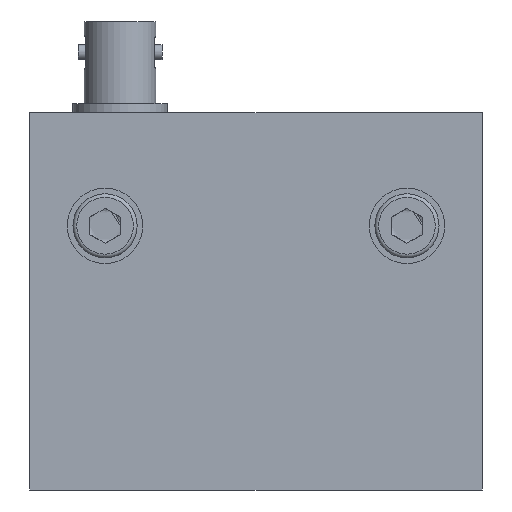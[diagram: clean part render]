
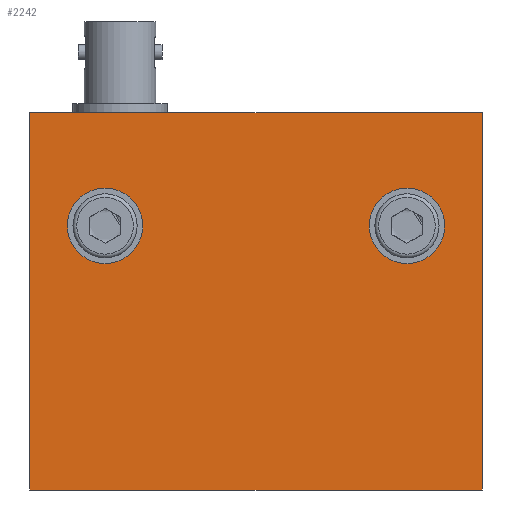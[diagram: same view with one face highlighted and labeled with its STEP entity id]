
A CAD part, front view. The second image highlights one B-rep face of the part: STEP entity #2242.
In plain terms, the highlighted planar face has unit normal (0, -1, 0).
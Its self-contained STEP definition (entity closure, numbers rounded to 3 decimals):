
#146=FACE_BOUND('',#396,.T.);
#147=FACE_BOUND('',#397,.T.);
#184=PLANE('',#2559);
#260=FACE_OUTER_BOUND('',#395,.T.);
#395=EDGE_LOOP('',(#1652,#1653,#1654,#1655));
#396=EDGE_LOOP('',(#1656));
#397=EDGE_LOOP('',(#1657));
#543=CIRCLE('',#2560,2.75);
#544=CIRCLE('',#2561,2.75);
#670=LINE('',#3587,#844);
#678=LINE('',#3603,#852);
#683=LINE('',#3612,#857);
#692=LINE('',#3633,#866);
#844=VECTOR('',#2863,10.);
#852=VECTOR('',#2875,10.);
#857=VECTOR('',#2882,10.);
#866=VECTOR('',#2909,10.);
#1025=VERTEX_POINT('',#3584);
#1026=VERTEX_POINT('',#3586);
#1032=VERTEX_POINT('',#3602);
#1035=VERTEX_POINT('',#3611);
#1039=VERTEX_POINT('',#3634);
#1040=VERTEX_POINT('',#3636);
#1255=EDGE_CURVE('',#1025,#1026,#670,.T.);
#1263=EDGE_CURVE('',#1032,#1026,#678,.T.);
#1268=EDGE_CURVE('',#1035,#1032,#683,.T.);
#1279=EDGE_CURVE('',#1025,#1035,#692,.T.);
#1280=EDGE_CURVE('',#1039,#1039,#543,.T.);
#1281=EDGE_CURVE('',#1040,#1040,#544,.T.);
#1652=ORIENTED_EDGE('',*,*,#1263,.T.);
#1653=ORIENTED_EDGE('',*,*,#1255,.F.);
#1654=ORIENTED_EDGE('',*,*,#1279,.T.);
#1655=ORIENTED_EDGE('',*,*,#1268,.T.);
#1656=ORIENTED_EDGE('',*,*,#1280,.T.);
#1657=ORIENTED_EDGE('',*,*,#1281,.T.);
#2242=ADVANCED_FACE('',(#260,#146,#147),#184,.T.);
#2559=AXIS2_PLACEMENT_3D('',#3632,#2907,#2908);
#2560=AXIS2_PLACEMENT_3D('',#3635,#2910,#2911);
#2561=AXIS2_PLACEMENT_3D('',#3637,#2912,#2913);
#2863=DIRECTION('',(0.,0.,-1.));
#2875=DIRECTION('',(1.,0.,0.));
#2882=DIRECTION('',(0.,0.,-1.));
#2907=DIRECTION('center_axis',(0.,-1.,0.));
#2908=DIRECTION('ref_axis',(0.,0.,-1.));
#2909=DIRECTION('',(-1.,0.,0.));
#2910=DIRECTION('center_axis',(0.,1.,0.));
#2911=DIRECTION('ref_axis',(1.,0.,0.));
#2912=DIRECTION('center_axis',(0.,1.,0.));
#2913=DIRECTION('ref_axis',(1.,0.,0.));
#3584=CARTESIAN_POINT('',(30.,-37.5,0.));
#3586=CARTESIAN_POINT('',(30.,-37.5,-50.));
#3587=CARTESIAN_POINT('',(30.,-37.5,0.));
#3602=CARTESIAN_POINT('',(-30.,-37.5,-50.));
#3603=CARTESIAN_POINT('',(30.,-37.5,-50.));
#3611=CARTESIAN_POINT('',(-30.,-37.5,0.));
#3612=CARTESIAN_POINT('',(-30.,-37.5,0.));
#3632=CARTESIAN_POINT('Origin',(-30.,-37.5,0.));
#3633=CARTESIAN_POINT('',(30.,-37.5,0.));
#3634=CARTESIAN_POINT('',(-22.75,-37.5,-15.));
#3635=CARTESIAN_POINT('Origin',(-20.,-37.5,-15.));
#3636=CARTESIAN_POINT('',(17.25,-37.5,-15.));
#3637=CARTESIAN_POINT('Origin',(20.,-37.5,-15.));
